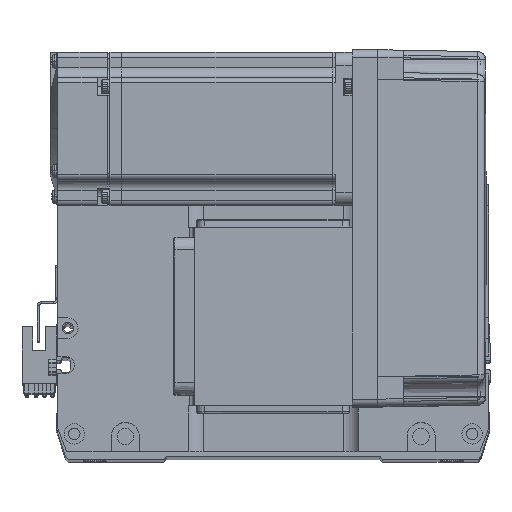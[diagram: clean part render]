
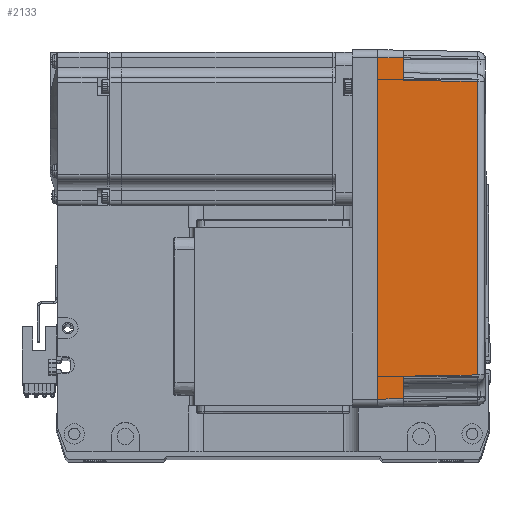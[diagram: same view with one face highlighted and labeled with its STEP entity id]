
A CAD part, top view. The second image highlights one B-rep face of the part: STEP entity #2133.
In plain terms, the highlighted planar face has unit normal (0.018, 0, 1) as drawn and (0, -1, 0.017) by its records, which use the part's own axes.
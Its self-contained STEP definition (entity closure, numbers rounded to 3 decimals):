
#253 = CARTESIAN_POINT ( 'NONE',  ( -19.165, -35.316, 39.181 ) ) ;
#1806 = EDGE_CURVE ( 'NONE', #5351, #32378, #42991, .T. ) ;
#1915 = CARTESIAN_POINT ( 'NONE',  ( -66.959, -35.958, 2.39 ) ) ;
#2133 = ADVANCED_FACE ( 'NONE', ( #31162 ), #26681, .T. ) ;
#2710 = ORIENTED_EDGE ( 'NONE', *, *, #1806, .T. ) ;
#3751 = CARTESIAN_POINT ( 'NONE',  ( -57.495, -35.32, 38.985 ) ) ;
#4123 = LINE ( 'NONE', #3751, #53062 ) ;
#4376 = VECTOR ( 'NONE', #35304, 1000. ) ;
#5351 = VERTEX_POINT ( 'NONE', #11064 ) ;
#5438 = LINE ( 'NONE', #53800, #18116 ) ;
#5744 = VERTEX_POINT ( 'NONE', #27801 ) ;
#6495 = DIRECTION ( 'NONE',  ( 0.017, 0.017, 1. ) ) ;
#6948 = DIRECTION ( 'NONE',  ( -1., 0., 0. ) ) ;
#9916 = VECTOR ( 'NONE', #11286, 1000. ) ;
#10492 = VERTEX_POINT ( 'NONE', #46297 ) ;
#11064 = CARTESIAN_POINT ( 'NONE',  ( 66.826, -35.825, 10. ) ) ;
#11286 = DIRECTION ( 'NONE',  ( -1., 0., 0. ) ) ;
#11613 = CARTESIAN_POINT ( 'NONE',  ( -67., -36., 0. ) ) ;
#11888 = EDGE_CURVE ( 'NONE', #5744, #5351, #59848, .T. ) ;
#13470 = CARTESIAN_POINT ( 'NONE',  ( 70., -35.825, 10. ) ) ;
#13907 = ORIENTED_EDGE ( 'NONE', *, *, #57616, .F. ) ;
#14037 = CARTESIAN_POINT ( 'NONE',  ( 57.495, -35.32, 38.985 ) ) ;
#14395 = VERTEX_POINT ( 'NONE', #57768 ) ;
#14695 = EDGE_LOOP ( 'NONE', ( #19392, #2710, #56252, #18068, #57043, #49437, #24556, #13907 ) ) ;
#17258 = VECTOR ( 'NONE', #6495, 1000. ) ;
#17807 = DIRECTION ( 'NONE',  ( 0., -0.017, -1. ) ) ;
#18068 = ORIENTED_EDGE ( 'NONE', *, *, #35020, .T. ) ;
#18116 = VECTOR ( 'NONE', #6948, 1000. ) ;
#19392 = ORIENTED_EDGE ( 'NONE', *, *, #11888, .T. ) ;
#20336 = VERTEX_POINT ( 'NONE', #53877 ) ;
#21588 = EDGE_CURVE ( 'NONE', #20336, #14395, #4123, .T. ) ;
#22802 = CARTESIAN_POINT ( 'NONE',  ( 19.165, -35.316, 39.181 ) ) ;
#23866 = LINE ( 'NONE', #1915, #17258 ) ;
#24556 = ORIENTED_EDGE ( 'NONE', *, *, #35188, .F. ) ;
#25374 = CARTESIAN_POINT ( 'NONE',  ( 58., -35.825, 10. ) ) ;
#26681 = PLANE ( 'NONE',  #44940 ) ;
#27801 = CARTESIAN_POINT ( 'NONE',  ( 67., -36., 0. ) ) ;
#28501 = B_SPLINE_CURVE_WITH_KNOTS ( 'NONE', 3,
 ( #41168, #22802, #253, #57895 ),
 .UNSPECIFIED., .F., .F.,
 ( 4, 4 ),
 ( 0., 1. ),
 .UNSPECIFIED. ) ;
#30971 = CARTESIAN_POINT ( 'NONE',  ( 58., -35.825, 10. ) ) ;
#31162 = FACE_OUTER_BOUND ( 'NONE', #14695, .T. ) ;
#32378 = VERTEX_POINT ( 'NONE', #25374 ) ;
#35020 = EDGE_CURVE ( 'NONE', #43865, #20336, #28501, .T. ) ;
#35188 = EDGE_CURVE ( 'NONE', #45174, #10492, #23866, .T. ) ;
#35304 = DIRECTION ( 'NONE',  ( -0.017, 0.017, 1. ) ) ;
#35775 = CARTESIAN_POINT ( 'NONE',  ( 70., -36., 0. ) ) ;
#39215 = LINE ( 'NONE', #30971, #4376 ) ;
#39637 = CARTESIAN_POINT ( 'NONE',  ( 0., -36., 0. ) ) ;
#41168 = CARTESIAN_POINT ( 'NONE',  ( 57.495, -35.32, 38.985 ) ) ;
#41912 = VECTOR ( 'NONE', #43731, 1000. ) ;
#42991 = LINE ( 'NONE', #13470, #44511 ) ;
#43731 = DIRECTION ( 'NONE',  ( -0.017, 0.017, 1. ) ) ;
#43865 = VERTEX_POINT ( 'NONE', #14037 ) ;
#44511 = VECTOR ( 'NONE', #46382, 1000. ) ;
#44940 = AXIS2_PLACEMENT_3D ( 'NONE', #35775, #46094, #17807 ) ;
#45174 = VERTEX_POINT ( 'NONE', #11613 ) ;
#46094 = DIRECTION ( 'NONE',  ( 0., -1., 0.017 ) ) ;
#46297 = CARTESIAN_POINT ( 'NONE',  ( -66.826, -35.825, 10. ) ) ;
#46382 = DIRECTION ( 'NONE',  ( -1., 0., 0. ) ) ;
#46842 = DIRECTION ( 'NONE',  ( -0.017, -0.017, -1. ) ) ;
#46993 = LINE ( 'NONE', #39637, #9916 ) ;
#48505 = CARTESIAN_POINT ( 'NONE',  ( 67., -36., 0. ) ) ;
#49392 = EDGE_CURVE ( 'NONE', #14395, #10492, #5438, .T. ) ;
#49437 = ORIENTED_EDGE ( 'NONE', *, *, #49392, .T. ) ;
#51989 = EDGE_CURVE ( 'NONE', #32378, #43865, #39215, .T. ) ;
#53062 = VECTOR ( 'NONE', #46842, 1000. ) ;
#53800 = CARTESIAN_POINT ( 'NONE',  ( 70., -35.825, 10. ) ) ;
#53877 = CARTESIAN_POINT ( 'NONE',  ( -57.495, -35.32, 38.985 ) ) ;
#56252 = ORIENTED_EDGE ( 'NONE', *, *, #51989, .T. ) ;
#57043 = ORIENTED_EDGE ( 'NONE', *, *, #21588, .T. ) ;
#57616 = EDGE_CURVE ( 'NONE', #5744, #45174, #46993, .T. ) ;
#57768 = CARTESIAN_POINT ( 'NONE',  ( -58., -35.825, 10. ) ) ;
#57895 = CARTESIAN_POINT ( 'NONE',  ( -57.495, -35.32, 38.985 ) ) ;
#59848 = LINE ( 'NONE', #48505, #41912 ) ;
